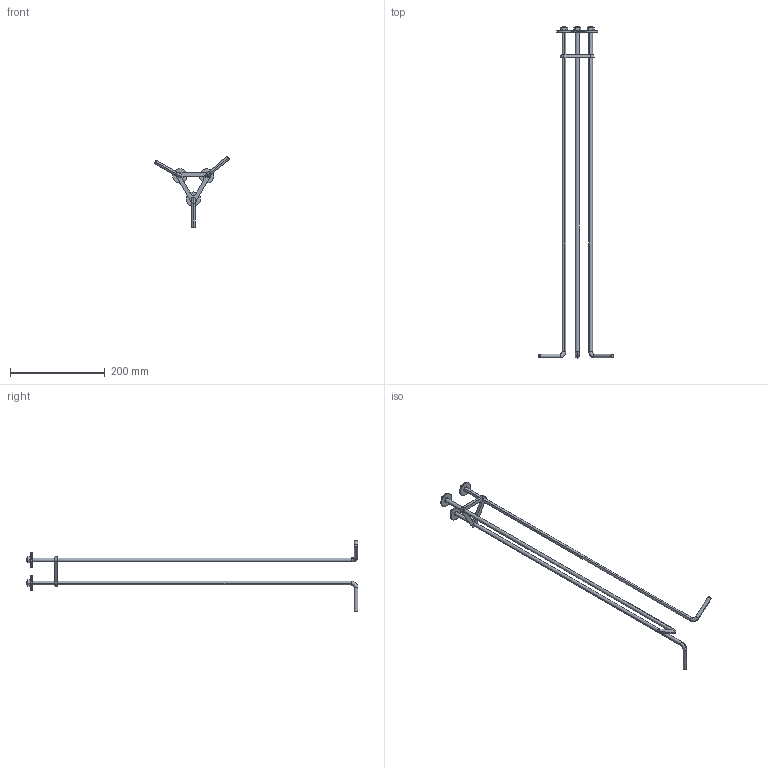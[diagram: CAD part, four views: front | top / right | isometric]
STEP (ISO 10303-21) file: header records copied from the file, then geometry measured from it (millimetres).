
FILE_DESCRIPTION (( 'STEP AP203' ), '1' );
FILE_NAME ('6130.STEP', '2020-07-09T12:11:13', ( '' ), ( '' ), 'SwSTEP 2.0', 'SolidWorks 2019', '' );
FILE_SCHEMA (( 'CONFIG_CONTROL_DESIGN' ));
Length unit declared in the file: millimetre
Products named in the file (5): M8_rs; TRÓJKAT 56,3_rs; KOTWA M10_TRÓJKAT 131,6_rs_M8x700 M168; 6130; Podk³adka 10,2 posz
Assembly tree (10 placements, depth 2):
  6130
    TRÓJKAT 56,3_rs
    KOTWA M10_TRÓJKAT 131,6_rs_M8x700 M168  x3
    Podk³adka 10,2 posz  x3
    M8_rs  x3
Bounding box: 157.64 x 699 x 149.74 mm (x, y, z)
Volume: 130002.7 mm3; surface area: 69055.1 mm2
Topology: 10 solids, 10 shells, 159 faces, 345 edges, 206 vertices
Faces by surface type: cone 67, plane 44, cylinder 36, torus 12
Entity records: 2716 total; most frequent: CARTESIAN_POINT 463, DIRECTION 363, ORIENTED_EDGE 306, AXIS2_PLACEMENT_3D 154, EDGE_CURVE 153, VERTEX_POINT 94, EDGE_LOOP 79, CIRCLE 74
